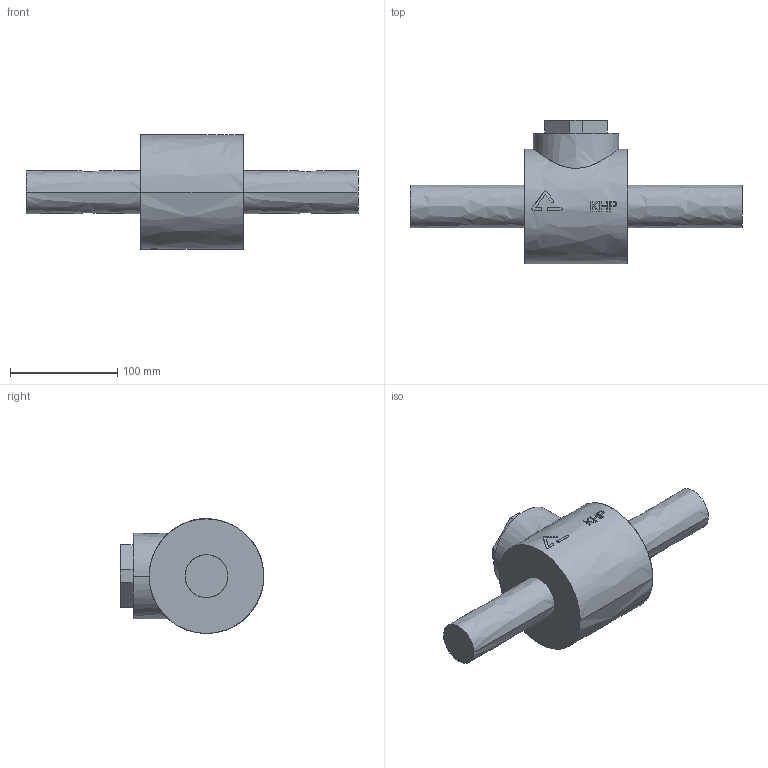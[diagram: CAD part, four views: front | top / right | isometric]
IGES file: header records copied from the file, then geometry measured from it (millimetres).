
Start section:  PTC IGES file: khp_d40.igs
Global section: file name: khp_d40.igs; native system: Pro/ENGINEER by Parametric Technology Corporation; preprocessor: 2006140; author: muellerc; organization: Unknown; date: 20060803.080515; units: millimetre
Bounding box: 310 x 134 x 107.3 mm (x, y, z)
Surface area: 85791.5 mm2 (no closed solid volume)
Topology: 0 solids, 0 shells, 95 faces, 545 edges, 548 vertices
Faces by surface type: bspline 95
